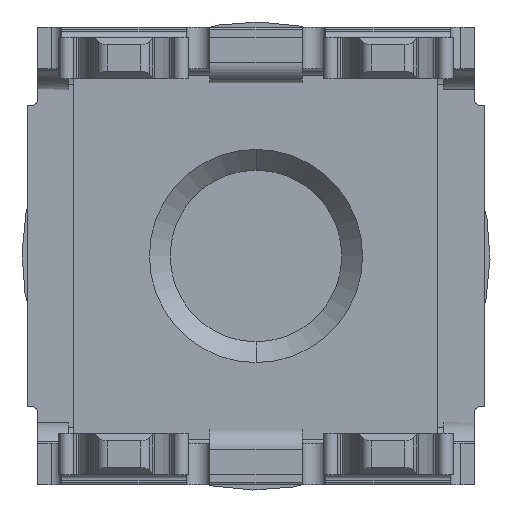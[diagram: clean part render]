
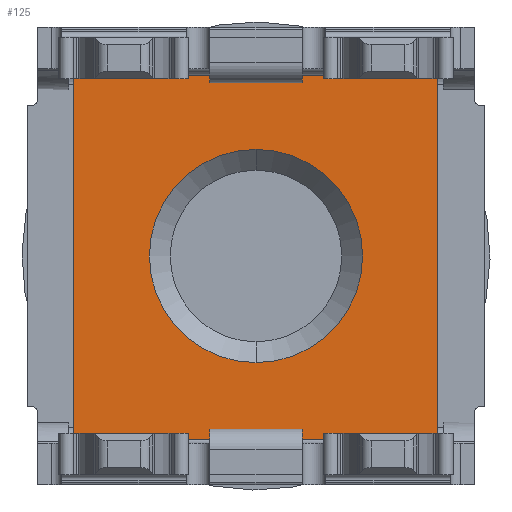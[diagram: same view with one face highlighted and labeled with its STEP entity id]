
A CAD part, front view. The second image highlights one B-rep face of the part: STEP entity #125.
In plain terms, the highlighted planar face has unit normal (0, -1, 0).
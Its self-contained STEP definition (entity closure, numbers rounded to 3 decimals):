
#75 = EDGE_LOOP ( 'NONE', ( #13328, #13329, #13330, #13331 ) ) ;
#84 = EDGE_LOOP ( 'NONE', ( #13326, #13327 ) ) ;
#125 = ADVANCED_FACE ( 'NONE', ( #3969, #3973 ), #1205, .T. ) ;
#1205 = PLANE ( 'NONE',  #3684 ) ;
#1212 = CARTESIAN_POINT ( 'NONE',  ( -0.002, -4.8, -0.022 ) ) ;
#1213 = DIRECTION ( 'NONE',  ( 0., -1., 0. ) ) ;
#1214 = DIRECTION ( 'NONE',  ( 0., 0., -1. ) ) ;
#3443 = EDGE_CURVE ( 'NONE', #13166, #13167, #11974, .T. ) ;
#3451 = EDGE_CURVE ( 'NONE', #13169, #13171, #11987, .T. ) ;
#3455 = EDGE_CURVE ( 'NONE', #13171, #13172, #11996, .T. ) ;
#3458 = EDGE_CURVE ( 'NONE', #13172, #13175, #12002, .T. ) ;
#3461 = EDGE_CURVE ( 'NONE', #13175, #13169, #12008, .T. ) ;
#3464 = EDGE_CURVE ( 'NONE', #13167, #13166, #12014, .T. ) ;
#3684 = AXIS2_PLACEMENT_3D ( 'NONE', #1212, #1213, #1214 ) ;
#3969 = FACE_BOUND ( 'NONE', #84, .T. ) ;
#3973 = FACE_OUTER_BOUND ( 'NONE', #75, .T. ) ;
#8891 = AXIS2_PLACEMENT_3D ( 'NONE', #11862, #11863, #11864 ) ;
#8895 = AXIS2_PLACEMENT_3D ( 'NONE', #11906, #11907, #11908 ) ;
#11862 = CARTESIAN_POINT ( 'NONE',  ( 0., -4.8, 0. ) ) ;
#11863 = DIRECTION ( 'NONE',  ( 0., -1., 0. ) ) ;
#11864 = DIRECTION ( 'NONE',  ( 0., 0., -1. ) ) ;
#11875 = CARTESIAN_POINT ( 'NONE',  ( -3.502, -4.8, 3.478 ) ) ;
#11882 = DIRECTION ( 'NONE',  ( 0., 0., 1. ) ) ;
#11889 = CARTESIAN_POINT ( 'NONE',  ( -3.502, -4.8, 3.478 ) ) ;
#11890 = DIRECTION ( 'NONE',  ( 1., 0., 0. ) ) ;
#11894 = CARTESIAN_POINT ( 'NONE',  ( 3.498, -4.8, 3.478 ) ) ;
#11895 = DIRECTION ( 'NONE',  ( 0., 0., -1. ) ) ;
#11899 = CARTESIAN_POINT ( 'NONE',  ( -3.502, -4.8, -3.522 ) ) ;
#11900 = DIRECTION ( 'NONE',  ( -1., 0., 0. ) ) ;
#11906 = CARTESIAN_POINT ( 'NONE',  ( 0., -4.8, 0. ) ) ;
#11907 = DIRECTION ( 'NONE',  ( 0., -1., 0. ) ) ;
#11908 = DIRECTION ( 'NONE',  ( 0., 0., -1. ) ) ;
#11974 = CIRCLE ( 'NONE', #8891, 2.05 ) ;
#11987 = LINE ( 'NONE', #11875, #11991 ) ;
#11991 = VECTOR ( 'NONE', #11882, 1000. ) ;
#11996 = LINE ( 'NONE', #11889, #11999 ) ;
#11999 = VECTOR ( 'NONE', #11890, 1000. ) ;
#12002 = LINE ( 'NONE', #11894, #12005 ) ;
#12005 = VECTOR ( 'NONE', #11895, 1000. ) ;
#12008 = LINE ( 'NONE', #11899, #12011 ) ;
#12011 = VECTOR ( 'NONE', #11900, 1000. ) ;
#12014 = CIRCLE ( 'NONE', #8895, 2.05 ) ;
#12426 = CARTESIAN_POINT ( 'NONE',  ( 0., -4.8, 2.05 ) ) ;
#12427 = CARTESIAN_POINT ( 'NONE',  ( 0., -4.8, -2.05 ) ) ;
#12429 = CARTESIAN_POINT ( 'NONE',  ( -3.502, -4.8, -3.522 ) ) ;
#12431 = CARTESIAN_POINT ( 'NONE',  ( -3.502, -4.8, 3.478 ) ) ;
#12432 = CARTESIAN_POINT ( 'NONE',  ( 3.498, -4.8, 3.478 ) ) ;
#12435 = CARTESIAN_POINT ( 'NONE',  ( 3.498, -4.8, -3.522 ) ) ;
#13166 = VERTEX_POINT ( 'NONE', #12426 ) ;
#13167 = VERTEX_POINT ( 'NONE', #12427 ) ;
#13169 = VERTEX_POINT ( 'NONE', #12429 ) ;
#13171 = VERTEX_POINT ( 'NONE', #12431 ) ;
#13172 = VERTEX_POINT ( 'NONE', #12432 ) ;
#13175 = VERTEX_POINT ( 'NONE', #12435 ) ;
#13326 = ORIENTED_EDGE ( 'NONE', *, *, #3464, .F. ) ;
#13327 = ORIENTED_EDGE ( 'NONE', *, *, #3443, .F. ) ;
#13328 = ORIENTED_EDGE ( 'NONE', *, *, #3451, .F. ) ;
#13329 = ORIENTED_EDGE ( 'NONE', *, *, #3461, .F. ) ;
#13330 = ORIENTED_EDGE ( 'NONE', *, *, #3458, .F. ) ;
#13331 = ORIENTED_EDGE ( 'NONE', *, *, #3455, .F. ) ;
